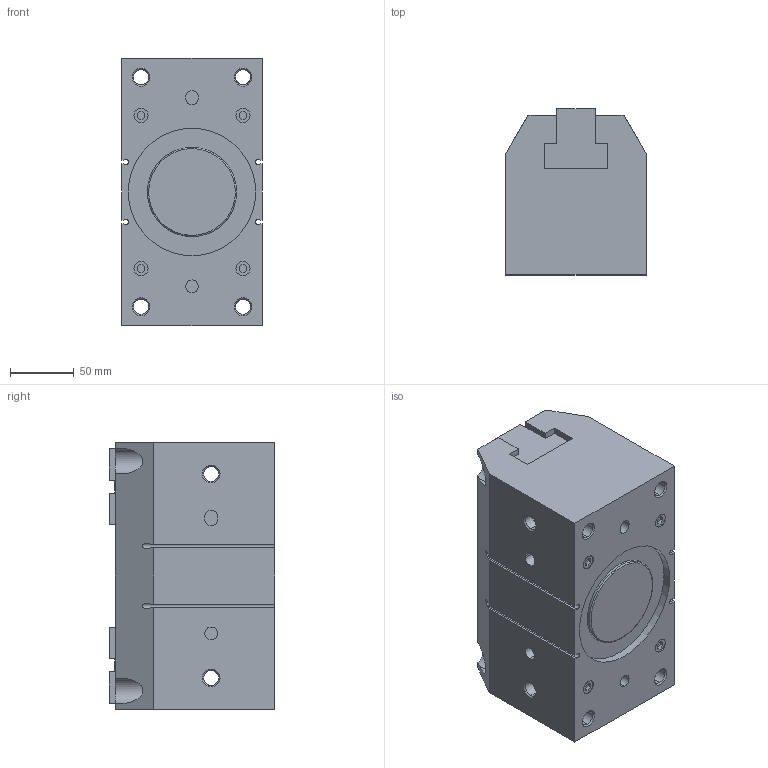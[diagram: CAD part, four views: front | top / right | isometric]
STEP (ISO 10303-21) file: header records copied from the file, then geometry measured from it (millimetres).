
FILE_DESCRIPTION (( 'STEP AP203' ), '1' );
FILE_NAME ('SDW100_0_.STEP', '2022-10-17T02:07:23', ( '' ), ( '' ), 'SwSTEP 2.0', 'SolidWorks 2018', '' );
FILE_SCHEMA (( 'CONFIG_CONTROL_DESIGN' ));
Length unit declared in the file: millimetre
Products named in the file (3): SDW100-06; SDW100_0_; SDW100-01
Assembly tree (3 placements, depth 2):
  SDW100_0_
    SDW100-01  x2
    SDW100-06
Bounding box: 110 x 130 x 210 mm (x, y, z)
Volume: 2611074 mm3; surface area: 203910.5 mm2
Topology: 3 solids, 3 shells, 250 faces, 636 edges, 416 vertices
Faces by surface type: plane 152, cylinder 72, cone 24, torus 2
Entity records: 7557 total; most frequent: CARTESIAN_POINT 1680, ORIENTED_EDGE 1148, DIRECTION 1148, EDGE_CURVE 574, LINE 392, VECTOR 392, AXIS2_PLACEMENT_3D 378, VERTEX_POINT 376
